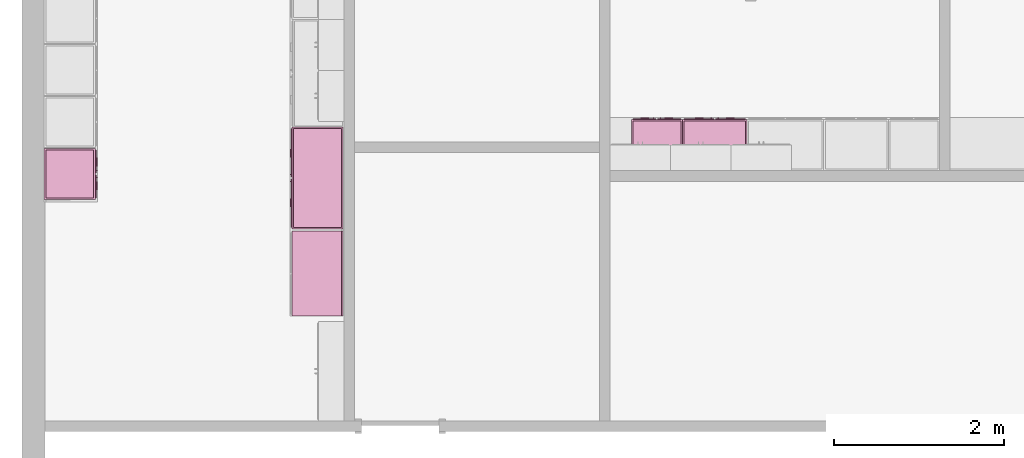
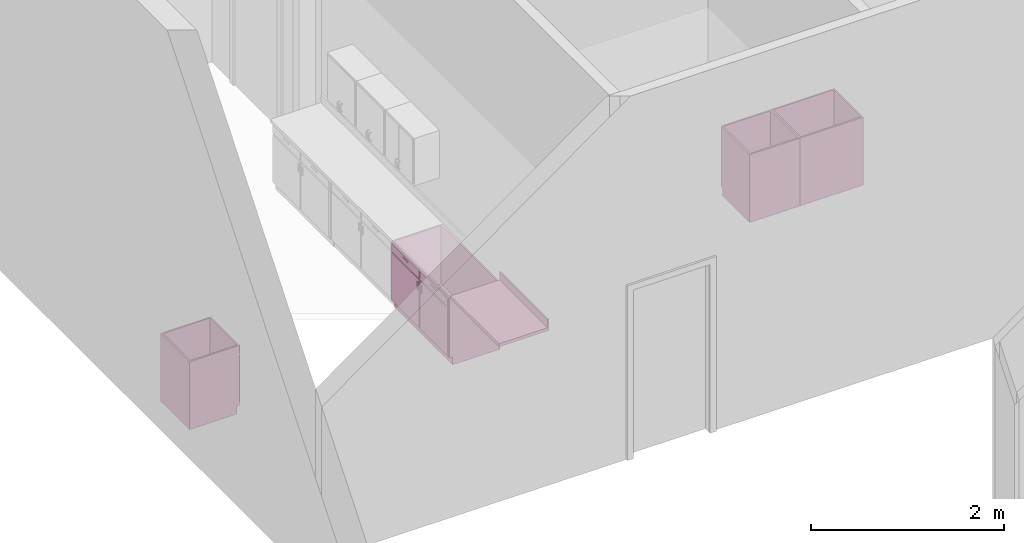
# One storey, part 39 of 47: 5 furnishings.
"""IFC2X3 building model written with IfcOpenShell, lengths in metres."""

from ifc_helpers import new_model, entity, si_unit, converted_unit, frame, origin, origin_2d_with_axis, place, context, project, spatial, rectangle, extrude, face_set, surface_model, source, transform, mapped, type_object, type_shapes, element, save


model = new_model("IFC2X3")

# Units and contexts
model_context = context("Model", 3, precision=1e-09, world=origin())
plan_context = context("Plan", 3, precision=1e-09, world=origin())
ifc_project = project(units=[si_unit("LENGTHUNIT", "METRE"), si_unit("AREAUNIT", "SQUARE_METRE"), si_unit("VOLUMEUNIT", "CUBIC_METRE"), converted_unit("PLANEANGLEUNIT", "DEGREE", entity("IfcRatioMeasure", 0.01745329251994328), si_unit("PLANEANGLEUNIT", "RADIAN"), dimensions=[0, 0, 0, 0, 0, 0, 0]), si_unit("TIMEUNIT", "SECOND")], contexts=[model_context, plan_context])

# Site, building, storey, space
site_placement = place(None, origin())
site = spatial("IfcSite", under=ifc_project, at=site_placement, Name="Default", CompositionType="ELEMENT")
building_placement = place(site_placement, origin())
building = spatial("IfcBuilding", under=site, at=building_placement, CompositionType="ELEMENT")
storey_placement = place(building_placement, frame((0.0, 0.0, 4.570000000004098)))
storey = spatial("IfcBuildingStorey", under=building, at=storey_placement, Name="Second Floor", CompositionType="ELEMENT", Elevation=4.570000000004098)
space_1_placement = place(storey_placement, origin())
space_1 = spatial("IfcSpace", under=storey, at=space_1_placement, Name="2C17", CompositionType="ELEMENT", InteriorOrExteriorSpace="INTERNAL")

# Furnishing
furniture_type_1 = type_object("IfcFurnitureType", Name="600mm", AssemblyPlace="NOTDEFINED")
shared_shape_1 = source(origin(), model_context, "Body", "SurfaceModel", [
    surface_model("IfcFaceBasedSurfaceModel", [(0.5809499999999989, 0.0444500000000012, 0.86000000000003), (0.5809499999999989, 0.0444500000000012, 0.09999999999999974), (0.01905000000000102, 0.0444500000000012, 0.09999999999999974), (0.01905000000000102, 0.0444500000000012, 0.86000000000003), (0.5999999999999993, 0.02540000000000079, 0.8600000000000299), (0.0, 0.02540000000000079, 0.8600000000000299), (0.5999999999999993, 0.02540000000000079, 0.09999999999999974), (0.0, 0.02540000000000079, 0.0999999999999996), (0.01905000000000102, 0.6063499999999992, 0.86000000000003), (0.01905000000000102, 0.6063499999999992, 0.09999999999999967), (0.01905000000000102, 0.06040000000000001, 0.09999999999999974), (0.0, 0.6253999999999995, 0.8600000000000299), (0.0, 0.6254000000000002, 0.0), (0.0, 0.06040000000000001, 0.0), (0.0, 0.06040000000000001, 0.09999999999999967), (0.5809499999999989, 0.6063499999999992, 0.86000000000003), (0.5809499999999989, 0.6063499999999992, 0.09999999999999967), (0.5999999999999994, 0.6253999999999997, 0.8600000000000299), (0.5999999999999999, 0.6253999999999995, 0.0), (0.5809499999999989, 0.06040000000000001, 0.09999999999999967), (0.5999999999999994, 0.06040000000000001, 0.09999999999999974), (0.5999999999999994, 0.06040000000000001, 0.0), (0.2103250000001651, 0.0, 0.8155500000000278), (0.2103250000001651, 0.0, 0.8028500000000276), (0.1087250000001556, 0.0, 0.8028500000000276), (0.1087250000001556, 0.0, 0.8155500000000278), (0.4912750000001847, 0.0, 0.8155500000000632), (0.4912750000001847, 0.0, 0.8028500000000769), (0.3896750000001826, 0.0, 0.8028500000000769), (0.3896750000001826, 0.0, 0.8155500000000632), (0.2650750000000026, 0.0, 0.6822000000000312), (0.2650750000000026, 0.0, 0.5806000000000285), (0.2523750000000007, 0.0, 0.5806000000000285), (0.2523750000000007, 0.0, 0.6822000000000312), (0.3476249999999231, 0.0, 0.6822000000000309), (0.3476249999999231, 0.0, 0.5806000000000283), (0.3349249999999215, 0.0, 0.5806000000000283), (0.3349249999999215, 0.0, 0.6822000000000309), (0.2103250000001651, 0.0127000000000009, 0.8155500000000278), (0.2103250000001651, 0.0127000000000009, 0.8028500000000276), (0.1087250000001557, 0.01270000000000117, 0.8028500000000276), (0.1087250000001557, 0.01270000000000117, 0.8155500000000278), (0.4912750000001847, 0.01269999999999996, 0.8155500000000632), (0.4912750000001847, 0.01269999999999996, 0.8028500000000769), (0.3896750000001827, 0.01270000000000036, 0.8028500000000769), (0.3896750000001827, 0.01270000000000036, 0.8155500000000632), (0.2650750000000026, 0.01270000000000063, 0.6822000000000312), (0.2650750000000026, 0.01270000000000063, 0.5806000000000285), (0.2523750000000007, 0.01270000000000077, 0.5806000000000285), (0.2523750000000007, 0.01270000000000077, 0.6822000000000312), (0.3476249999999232, 0.0127000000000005, 0.6822000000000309), (0.3476249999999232, 0.0127000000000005, 0.5806000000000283), (0.3349249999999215, 0.0127000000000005, 0.5806000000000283), (0.3349249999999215, 0.0127000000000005, 0.6822000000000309), (0.2904749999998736, 0.01270000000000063, 0.8409500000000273), (0.2904749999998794, 0.01270000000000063, 0.7393500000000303), (0.01905000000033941, 0.01270000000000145, 0.7393500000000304), (0.01905000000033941, 0.01270000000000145, 0.8409500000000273), (0.5809500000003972, 0.01269999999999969, 0.8409500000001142), (0.5809500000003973, 0.01269999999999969, 0.7393500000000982), (0.3095249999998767, 0.0127000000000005, 0.7393500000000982), (0.309524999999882, 0.0127000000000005, 0.8409500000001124), (0.2904749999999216, 0.01270000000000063, 0.7203000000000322), (0.290474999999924, 0.01270000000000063, 0.1190499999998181), (0.01905000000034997, 0.01270000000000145, 0.1190499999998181), (0.01905000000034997, 0.01270000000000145, 0.7203000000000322), (0.5809500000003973, 0.01269999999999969, 0.7203000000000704), (0.5809500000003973, 0.01269999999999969, 0.1190499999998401), (0.3095249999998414, 0.0127000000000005, 0.1190499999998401), (0.3095249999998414, 0.0127000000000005, 0.7203000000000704), (0.2904749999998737, 0.02540000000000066, 0.8409500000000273), (0.2904749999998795, 0.02540000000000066, 0.7393500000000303), (0.01905000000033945, 0.02540000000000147, 0.7393500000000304), (0.01905000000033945, 0.02540000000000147, 0.8409500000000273), (0.5809500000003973, 0.02539999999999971, 0.8409500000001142), (0.5809500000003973, 0.02539999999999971, 0.7393500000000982), (0.3095249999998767, 0.02540000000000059, 0.7393500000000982), (0.309524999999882, 0.02540000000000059, 0.8409500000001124), (0.2904749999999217, 0.02540000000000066, 0.7203000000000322), (0.290474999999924, 0.02540000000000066, 0.1190499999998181), (0.01905000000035, 0.02540000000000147, 0.1190499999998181), (0.01905000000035, 0.02540000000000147, 0.7203000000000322), (0.5809500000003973, 0.02539999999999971, 0.7203000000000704), (0.5809500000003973, 0.02539999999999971, 0.1190499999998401), (0.3095249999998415, 0.02540000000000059, 0.1190499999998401), (0.3095249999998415, 0.02540000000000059, 0.7203000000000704), (0.580949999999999, 0.6063499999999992, 0.1190499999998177), (0.580949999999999, 0.04445000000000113, 0.1190499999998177), (0.01905000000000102, 0.04445000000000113, 0.1190499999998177), (0.01905000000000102, 0.6063499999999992, 0.1190499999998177), (0.580949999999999, 0.6063499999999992, 0.09999999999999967), (0.580949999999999, 0.04445000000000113, 0.09999999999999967), (0.01905000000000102, 0.04445000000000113, 0.09999999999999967), (0.01905000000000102, 0.6063499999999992, 0.09999999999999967)], [face_set([[[0, 1, 2, 3]], [[0, 4, 5, 3]], [[4, 6, 7, 5]], [[2, 1, 6, 7]], [[3, 8, 9, 10, 2]], [[5, 11, 8, 3]], [[7, 5, 11, 12, 13, 14]], [[2, 7, 14, 10]], [[8, 15, 16, 9]], [[11, 17, 15, 8]], [[12, 11, 17, 18]], [[1, 19, 16, 15, 0]], [[0, 15, 17, 4]], [[4, 6, 20, 21, 18, 17]], [[6, 1, 19, 20]], [[10, 9, 16, 19]], [[18, 21, 13, 12]], [[13, 14, 10, 19, 20, 21]]]), face_set([[[22, 23, 24, 25]], [[26, 27, 28, 29]], [[30, 31, 32, 33]], [[34, 35, 36, 37]], [[38, 39, 40, 41]], [[42, 43, 44, 45]], [[46, 47, 48, 49]], [[50, 51, 52, 53]], [[25, 41, 38, 22]], [[24, 40, 41, 25]], [[23, 24, 40, 39]], [[22, 23, 39, 38]], [[29, 45, 42, 26]], [[28, 44, 45, 29]], [[27, 28, 44, 43]], [[26, 27, 43, 42]], [[33, 49, 46, 30]], [[32, 48, 49, 33]], [[31, 32, 48, 47]], [[30, 31, 47, 46]], [[37, 53, 50, 34]], [[36, 52, 53, 37]], [[35, 36, 52, 51]], [[34, 35, 51, 50]]]), face_set([[[54, 55, 56, 57]], [[58, 59, 60, 61]], [[62, 63, 64, 65]], [[66, 67, 68, 69]], [[70, 71, 72, 73]], [[74, 75, 76, 77]], [[78, 79, 80, 81]], [[82, 83, 84, 85]], [[57, 73, 70, 54]], [[56, 57, 73, 72]], [[55, 56, 72, 71]], [[54, 55, 71, 70]], [[61, 77, 74, 58]], [[60, 76, 77, 61]], [[59, 60, 76, 75]], [[58, 59, 75, 74]], [[65, 81, 78, 62]], [[64, 65, 81, 80]], [[63, 64, 80, 79]], [[62, 63, 79, 78]], [[69, 85, 82, 66]], [[68, 84, 85, 69]], [[67, 68, 84, 83]], [[66, 67, 83, 82]]]), face_set([[[86, 87, 88, 89]], [[90, 91, 92, 93]], [[89, 86, 90, 93]], [[88, 89, 93, 92]], [[87, 91, 92, 88]], [[86, 87, 91, 90]]])]),
])
type_shapes(furniture_type_1, [shared_shape_1])
furnishing_1_placement = place(space_1_placement, frame((-46.49500000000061, 41.12041136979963, 0.0), z_axis=(0.0, 0.0, 1.0), x_axis=(0.0, 1.0, 0.0)))
element("IfcFurnishingElement", 1, at=furnishing_1_placement, inside=space_1, type_object=furniture_type_1, Name="M_Base Cabinet-Double Door & 2 Drawer:600mm:600mm", ObjectType="600mm", context=model_context, shape_type="MappedRepresentation", body=[
    mapped(shared_shape_1, transform((0.0, 0.0, 0.0), scale=1.0)),
])

# Space
space_2_placement = place(storey_placement, origin())
space_2 = spatial("IfcSpace", under=storey, at=space_2_placement, Name="2C12", CompositionType="ELEMENT", InteriorOrExteriorSpace="INTERNAL")

# Furnishings
furnishing_2_placement = place(space_2_placement, frame((-39.62400000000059, 42.08383871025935, 0.0), z_axis=(0.0, 0.0, 1.0), x_axis=(-1.0, 0.0, 0.0)))
element("IfcFurnishingElement", 2, at=furnishing_2_placement, inside=space_2, type_object=furniture_type_1, Name="M_Base Cabinet-Double Door & 2 Drawer:600mm:600mm", ObjectType="600mm", context=model_context, shape_type="MappedRepresentation", body=[
    mapped(shared_shape_1, transform((0.0, 0.0, 0.0), scale=1.0)),
])
furniture_type_2 = type_object("IfcFurnitureType", Name="1200mm", AssemblyPlace="NOTDEFINED")
shared_shape_2 = source(origin(), model_context, "Body", "SurfaceModel", [
    surface_model("IfcFaceBasedSurfaceModel", [(1.180949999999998, 0.04445000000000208, 0.86000000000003), (1.180949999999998, 0.04445000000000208, 0.09999999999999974), (0.01905000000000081, 0.04445000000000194, 0.09999999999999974), (0.01905000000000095, 0.04445000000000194, 0.86000000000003), (1.2, 0.02540000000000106, 0.8600000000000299), (0.0, 0.02540000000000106, 0.8600000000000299), (1.2, 0.02540000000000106, 0.09999999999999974), (0.0, 0.02540000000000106, 0.0999999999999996), (0.01905000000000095, 0.6063499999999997, 0.86000000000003), (0.01905000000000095, 0.6063499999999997, 0.09999999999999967), (0.01905000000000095, 0.06040000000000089, 0.09999999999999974), (0.0, 0.6254000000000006, 0.8600000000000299), (0.0, 0.6254000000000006, 0.0), (0.0, 0.06040000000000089, 0.0), (0.0, 0.06040000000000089, 0.09999999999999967), (1.180949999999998, 0.6063499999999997, 0.86000000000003), (1.180949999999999, 0.6063499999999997, 0.09999999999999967), (1.2, 0.6254000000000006, 0.8600000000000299), (1.2, 0.6254000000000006, 0.0), (1.180949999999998, 0.06040000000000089, 0.09999999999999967), (1.2, 0.06040000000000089, 0.09999999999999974), (1.2, 0.06040000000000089, 0.0), (0.3603250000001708, 0.0, 0.8155500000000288), (0.3603250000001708, 0.0, 0.8028500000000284), (0.258725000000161, 0.0, 0.8028500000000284), (0.258725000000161, 0.0, 0.8155500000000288), (0.9412750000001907, 0.0, 0.8155500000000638), (0.9412750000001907, 0.0, 0.8028500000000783), (0.8396750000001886, 0.0, 0.8028500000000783), (0.8396750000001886, 0.0, 0.8155500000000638), (0.5650750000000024, 0.0, 0.6822000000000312), (0.5650750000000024, 0.0, 0.5806000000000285), (0.5523750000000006, 0.0, 0.5806000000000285), (0.5523750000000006, 0.0, 0.6822000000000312), (0.6476249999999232, 0.0, 0.6822000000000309), (0.6476249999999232, 0.0, 0.5806000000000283), (0.6349249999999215, 0.0, 0.5806000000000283), (0.6349249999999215, 0.0, 0.6822000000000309), (0.3603250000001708, 0.01270000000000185, 0.8155500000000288), (0.3603250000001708, 0.01270000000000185, 0.8028500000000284), (0.2587250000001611, 0.01270000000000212, 0.8028500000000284), (0.2587250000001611, 0.01270000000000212, 0.8155500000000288), (0.9412750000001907, 0.01269999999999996, 0.8155500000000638), (0.9412750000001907, 0.01269999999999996, 0.8028500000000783), (0.8396750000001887, 0.01270000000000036, 0.8028500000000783), (0.8396750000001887, 0.01270000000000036, 0.8155500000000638), (0.5650750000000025, 0.01270000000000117, 0.6822000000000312), (0.5650750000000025, 0.01270000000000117, 0.5806000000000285), (0.5523750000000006, 0.01270000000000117, 0.5806000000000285), (0.5523750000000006, 0.01270000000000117, 0.6822000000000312), (0.6476249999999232, 0.0127000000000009, 0.6822000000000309), (0.6476249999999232, 0.0127000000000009, 0.5806000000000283), (0.6349249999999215, 0.0127000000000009, 0.5806000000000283), (0.6349249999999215, 0.0127000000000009, 0.6822000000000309), (0.5904749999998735, 0.01270000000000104, 0.8409500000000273), (0.5904749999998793, 0.01270000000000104, 0.7393500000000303), (0.01905000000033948, 0.0127000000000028, 0.7393500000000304), (0.01905000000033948, 0.0127000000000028, 0.8409500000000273), (1.180950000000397, 0.01269999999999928, 0.8409500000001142), (1.180950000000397, 0.01269999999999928, 0.7393500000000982), (0.6095249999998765, 0.01270000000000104, 0.7393500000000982), (0.6095249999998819, 0.01270000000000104, 0.8409500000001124), (0.5904749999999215, 0.01270000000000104, 0.7203000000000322), (0.5904749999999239, 0.01270000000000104, 0.1190499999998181), (0.01905000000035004, 0.0127000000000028, 0.1190499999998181), (0.01905000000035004, 0.0127000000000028, 0.7203000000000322), (1.180950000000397, 0.01269999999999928, 0.7203000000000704), (1.180950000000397, 0.01269999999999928, 0.1190499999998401), (0.6095249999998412, 0.01270000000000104, 0.1190499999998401), (0.6095249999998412, 0.01270000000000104, 0.7203000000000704), (0.5904749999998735, 0.02540000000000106, 0.8409500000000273), (0.5904749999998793, 0.02540000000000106, 0.7393500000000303), (0.01905000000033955, 0.02540000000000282, 0.7393500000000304), (0.01905000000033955, 0.02540000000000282, 0.8409500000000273), (1.180950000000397, 0.02539999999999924, 0.8409500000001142), (1.180950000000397, 0.02539999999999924, 0.7393500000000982), (0.6095249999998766, 0.025400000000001, 0.7393500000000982), (0.6095249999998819, 0.025400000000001, 0.8409500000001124), (0.5904749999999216, 0.02540000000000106, 0.7203000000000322), (0.5904749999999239, 0.02540000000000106, 0.1190499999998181), (0.01905000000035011, 0.02540000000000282, 0.1190499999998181), (0.01905000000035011, 0.02540000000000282, 0.7203000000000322), (1.180950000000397, 0.02539999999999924, 0.7203000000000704), (1.180950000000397, 0.02539999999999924, 0.1190499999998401), (0.6095249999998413, 0.025400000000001, 0.1190499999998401), (0.6095249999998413, 0.025400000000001, 0.7203000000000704), (1.180949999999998, 0.6063499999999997, 0.1190499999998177), (1.180949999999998, 0.04445000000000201, 0.1190499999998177), (0.01905000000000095, 0.04445000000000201, 0.1190499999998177), (0.01905000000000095, 0.6063499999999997, 0.1190499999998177), (1.180949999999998, 0.6063499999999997, 0.09999999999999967), (1.180949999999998, 0.04445000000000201, 0.09999999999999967), (0.01905000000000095, 0.04445000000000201, 0.09999999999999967), (0.01905000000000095, 0.6063499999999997, 0.09999999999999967)], [face_set([[[0, 1, 2, 3]], [[0, 4, 5, 3]], [[4, 6, 7, 5]], [[2, 1, 6, 7]], [[3, 8, 9, 10, 2]], [[5, 11, 8, 3]], [[7, 5, 11, 12, 13, 14]], [[2, 7, 14, 10]], [[8, 15, 16, 9]], [[11, 17, 15, 8]], [[12, 11, 17, 18]], [[1, 19, 16, 15, 0]], [[0, 15, 17, 4]], [[4, 6, 20, 21, 18, 17]], [[6, 1, 19, 20]], [[10, 9, 16, 19]], [[18, 21, 13, 12]], [[13, 14, 10, 19, 20, 21]]]), face_set([[[22, 23, 24, 25]], [[26, 27, 28, 29]], [[30, 31, 32, 33]], [[34, 35, 36, 37]], [[38, 39, 40, 41]], [[42, 43, 44, 45]], [[46, 47, 48, 49]], [[50, 51, 52, 53]], [[25, 41, 38, 22]], [[24, 40, 41, 25]], [[23, 24, 40, 39]], [[22, 23, 39, 38]], [[29, 45, 42, 26]], [[28, 44, 45, 29]], [[27, 28, 44, 43]], [[26, 27, 43, 42]], [[33, 49, 46, 30]], [[32, 48, 49, 33]], [[31, 32, 48, 47]], [[30, 31, 47, 46]], [[37, 53, 50, 34]], [[36, 52, 53, 37]], [[35, 36, 52, 51]], [[34, 35, 51, 50]]]), face_set([[[54, 55, 56, 57]], [[58, 59, 60, 61]], [[62, 63, 64, 65]], [[66, 67, 68, 69]], [[70, 71, 72, 73]], [[74, 75, 76, 77]], [[78, 79, 80, 81]], [[82, 83, 84, 85]], [[57, 73, 70, 54]], [[56, 57, 73, 72]], [[55, 56, 72, 71]], [[54, 55, 71, 70]], [[61, 77, 74, 58]], [[60, 76, 77, 61]], [[59, 60, 76, 75]], [[58, 59, 75, 74]], [[65, 81, 78, 62]], [[64, 65, 81, 80]], [[63, 64, 80, 79]], [[62, 63, 79, 78]], [[69, 85, 82, 66]], [[68, 84, 85, 69]], [[67, 68, 84, 83]], [[66, 67, 83, 82]]]), face_set([[[86, 87, 88, 89]], [[90, 91, 92, 93]], [[89, 86, 90, 93]], [[88, 89, 93, 92]], [[87, 91, 92, 88]], [[86, 87, 91, 90]]])]),
])
type_shapes(furniture_type_2, [shared_shape_2])
furnishing_3_placement = place(space_1_placement, frame((-44.23500000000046, 41.97288125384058, 0.0), z_axis=(0.0, 0.0, 1.0), x_axis=(0.0, -1.0, 0.0)))
element("IfcFurnishingElement", 3, at=furnishing_3_placement, inside=space_1, type_object=furniture_type_2, Name="M_Base Cabinet-Double Door & 2 Drawer:1200mm:1200mm", ObjectType="1200mm", context=model_context, shape_type="MappedRepresentation", body=[
    mapped(shared_shape_2, transform((0.0, 0.0, 0.0), scale=1.0)),
])
furniture_type_3 = type_object("IfcFurnitureType", Name="600mm Depth", AssemblyPlace="NOTDEFINED")
shared_shape_3 = source(origin(), model_context, "Body", "SweptSolid", [
    extrude(rectangle(XDim=0.01905000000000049, YDim=0.9999999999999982, at=origin_2d_with_axis()), frame((-0.7004622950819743, -0.009525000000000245, 0.9000000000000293), z_axis=(0.0, 0.0, 1.0), x_axis=(0.0, -1.0, 0.0)), (0.0, 0.0, 1.0), 0.1016000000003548),
    extrude(rectangle(XDim=0.9999999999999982, YDim=0.5999999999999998, at=origin_2d_with_axis()), frame((-0.7004622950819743, -0.2999999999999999, 0.8600000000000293), z_axis=(0.0, 0.0, 1.0), x_axis=(-1.0, 0.0, 0.0)), (0.0, 0.0, 1.0), 0.04000000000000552),
])
type_shapes(furniture_type_3, [shared_shape_3])
furnishing_4_placement = place(space_1_placement, frame((-43.60960000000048, 39.54962118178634, 0.0), z_axis=(0.0, 0.0, 1.0), x_axis=(0.0, -1.0, 0.0)))
element("IfcFurnishingElement", 4, at=furnishing_4_placement, inside=space_1, type_object=furniture_type_3, Name="M_Counter Top:600mm Depth:600mm Depth", ObjectType="600mm Depth", context=model_context, shape_type="MappedRepresentation", body=[
    mapped(shared_shape_3, transform((0.0, 0.0, 0.0), scale=1.0)),
])
furniture_type_4 = type_object("IfcFurnitureType", Name="760mm", AssemblyPlace="NOTDEFINED")
shared_shape_4 = source(origin(), model_context, "Body", "SurfaceModel", [
    surface_model("IfcFaceBasedSurfaceModel", [(0.7409499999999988, 0.04445000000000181, 0.86000000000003), (0.7409499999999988, 0.04445000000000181, 0.09999999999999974), (0.01905000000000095, 0.04445000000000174, 0.09999999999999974), (0.01905000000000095, 0.04445000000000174, 0.86000000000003), (0.7599999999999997, 0.02540000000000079, 0.8600000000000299), (0.0, 0.02540000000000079, 0.8600000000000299), (0.7599999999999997, 0.02540000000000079, 0.09999999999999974), (0.0, 0.02540000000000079, 0.0999999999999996), (0.01905000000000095, 0.6063499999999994, 0.86000000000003), (0.01905000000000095, 0.6063499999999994, 0.09999999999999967), (0.01905000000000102, 0.06040000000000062, 0.09999999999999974), (0.0, 0.6254000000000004, 0.8600000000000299), (0.0, 0.6254000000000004, 0.0), (0.0, 0.06040000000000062, 0.0), (0.0, 0.06040000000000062, 0.09999999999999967), (0.7409499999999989, 0.6063499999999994, 0.86000000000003), (0.7409499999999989, 0.6063499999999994, 0.09999999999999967), (0.7599999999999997, 0.6254000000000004, 0.8600000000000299), (0.7599999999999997, 0.6254000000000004, 0.0), (0.7409499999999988, 0.06040000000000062, 0.09999999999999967), (0.7599999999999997, 0.06040000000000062, 0.09999999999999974), (0.7599999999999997, 0.06040000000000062, 0.0), (0.2503250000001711, 0.0, 0.8155500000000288), (0.2503250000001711, 0.0, 0.8028500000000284), (0.1487250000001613, 0.0, 0.8028500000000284), (0.1487250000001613, 0.0, 0.8155500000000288), (0.6112750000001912, 0.0, 0.8155500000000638), (0.6112750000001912, 0.0, 0.8028500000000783), (0.509675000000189, 0.0, 0.8028500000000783), (0.509675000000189, 0.0, 0.8155500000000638), (0.3450750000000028, 0.0, 0.6822000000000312), (0.3450750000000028, 0.0, 0.5806000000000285), (0.3323750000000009, 0.0, 0.5806000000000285), (0.3323750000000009, 0.0, 0.6822000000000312), (0.4276249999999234, 0.0, 0.6822000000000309), (0.4276249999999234, 0.0, 0.5806000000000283), (0.4149249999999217, 0.0, 0.5806000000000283), (0.4149249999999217, 0.0, 0.6822000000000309), (0.2503250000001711, 0.01270000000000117, 0.8155500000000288), (0.2503250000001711, 0.01270000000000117, 0.8028500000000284), (0.1487250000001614, 0.01270000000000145, 0.8028500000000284), (0.1487250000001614, 0.01270000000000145, 0.8155500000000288), (0.6112750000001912, 0.01269999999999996, 0.8155500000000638), (0.6112750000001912, 0.01269999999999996, 0.8028500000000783), (0.5096750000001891, 0.01270000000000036, 0.8028500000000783), (0.5096750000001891, 0.01270000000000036, 0.8155500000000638), (0.3450750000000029, 0.0127000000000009, 0.6822000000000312), (0.3450750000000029, 0.0127000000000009, 0.5806000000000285), (0.3323750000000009, 0.0127000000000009, 0.5806000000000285), (0.3323750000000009, 0.0127000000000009, 0.6822000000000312), (0.4276249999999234, 0.01270000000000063, 0.6822000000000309), (0.4276249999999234, 0.01270000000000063, 0.5806000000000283), (0.4149249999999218, 0.01270000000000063, 0.5806000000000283), (0.4149249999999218, 0.01270000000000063, 0.6822000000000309), (0.3704749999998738, 0.01270000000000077, 0.8409500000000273), (0.3704749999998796, 0.01270000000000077, 0.7393500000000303), (0.01905000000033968, 0.01270000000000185, 0.7393500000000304), (0.01905000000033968, 0.01270000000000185, 0.8409500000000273), (0.7409500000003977, 0.01269999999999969, 0.8409500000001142), (0.7409500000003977, 0.01269999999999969, 0.7393500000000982), (0.3895249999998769, 0.01270000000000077, 0.7393500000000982), (0.3895249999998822, 0.01270000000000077, 0.8409500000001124), (0.3704749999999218, 0.01270000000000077, 0.7203000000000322), (0.3704749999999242, 0.01270000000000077, 0.1190499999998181), (0.01905000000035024, 0.01270000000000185, 0.1190499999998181), (0.01905000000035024, 0.01270000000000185, 0.7203000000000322), (0.7409500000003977, 0.01269999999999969, 0.7203000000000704), (0.7409500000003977, 0.01269999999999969, 0.1190499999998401), (0.3895249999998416, 0.01270000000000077, 0.1190499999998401), (0.3895249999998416, 0.01270000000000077, 0.7203000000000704), (0.3704749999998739, 0.02540000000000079, 0.8409500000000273), (0.3704749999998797, 0.02540000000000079, 0.7393500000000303), (0.01905000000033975, 0.02540000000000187, 0.7393500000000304), (0.01905000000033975, 0.02540000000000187, 0.8409500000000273), (0.7409500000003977, 0.02539999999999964, 0.8409500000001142), (0.7409500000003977, 0.02539999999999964, 0.7393500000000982), (0.3895249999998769, 0.02540000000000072, 0.7393500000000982), (0.3895249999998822, 0.02540000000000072, 0.8409500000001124), (0.3704749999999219, 0.02540000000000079, 0.7203000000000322), (0.3704749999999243, 0.02540000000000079, 0.1190499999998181), (0.01905000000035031, 0.02540000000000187, 0.1190499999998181), (0.01905000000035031, 0.02540000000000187, 0.7203000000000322), (0.7409500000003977, 0.02539999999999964, 0.7203000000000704), (0.7409500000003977, 0.02539999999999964, 0.1190499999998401), (0.3895249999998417, 0.02540000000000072, 0.1190499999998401), (0.3895249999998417, 0.02540000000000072, 0.7203000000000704), (0.7409499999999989, 0.6063499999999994, 0.1190499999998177), (0.7409499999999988, 0.04445000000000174, 0.1190499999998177), (0.01905000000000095, 0.04445000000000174, 0.1190499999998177), (0.01905000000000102, 0.6063499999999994, 0.1190499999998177), (0.7409499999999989, 0.6063499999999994, 0.09999999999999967), (0.7409499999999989, 0.04445000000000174, 0.09999999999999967), (0.01905000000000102, 0.04445000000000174, 0.09999999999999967), (0.01905000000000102, 0.6063499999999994, 0.09999999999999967)], [face_set([[[0, 1, 2, 3]], [[0, 4, 5, 3]], [[4, 6, 7, 5]], [[2, 1, 6, 7]], [[3, 8, 9, 10, 2]], [[5, 11, 8, 3]], [[7, 5, 11, 12, 13, 14]], [[2, 7, 14, 10]], [[8, 15, 16, 9]], [[11, 17, 15, 8]], [[12, 11, 17, 18]], [[1, 19, 16, 15, 0]], [[0, 15, 17, 4]], [[4, 6, 20, 21, 18, 17]], [[6, 1, 19, 20]], [[10, 9, 16, 19]], [[18, 21, 13, 12]], [[13, 14, 10, 19, 20, 21]]]), face_set([[[22, 23, 24, 25]], [[26, 27, 28, 29]], [[30, 31, 32, 33]], [[34, 35, 36, 37]], [[38, 39, 40, 41]], [[42, 43, 44, 45]], [[46, 47, 48, 49]], [[50, 51, 52, 53]], [[25, 41, 38, 22]], [[24, 40, 41, 25]], [[23, 24, 40, 39]], [[22, 23, 39, 38]], [[29, 45, 42, 26]], [[28, 44, 45, 29]], [[27, 28, 44, 43]], [[26, 27, 43, 42]], [[33, 49, 46, 30]], [[32, 48, 49, 33]], [[31, 32, 48, 47]], [[30, 31, 47, 46]], [[37, 53, 50, 34]], [[36, 52, 53, 37]], [[35, 36, 52, 51]], [[34, 35, 51, 50]]]), face_set([[[54, 55, 56, 57]], [[58, 59, 60, 61]], [[62, 63, 64, 65]], [[66, 67, 68, 69]], [[70, 71, 72, 73]], [[74, 75, 76, 77]], [[78, 79, 80, 81]], [[82, 83, 84, 85]], [[57, 73, 70, 54]], [[56, 57, 73, 72]], [[55, 56, 72, 71]], [[54, 55, 71, 70]], [[61, 77, 74, 58]], [[60, 76, 77, 61]], [[59, 60, 76, 75]], [[58, 59, 75, 74]], [[65, 81, 78, 62]], [[64, 65, 81, 80]], [[63, 64, 80, 79]], [[62, 63, 79, 78]], [[69, 85, 82, 66]], [[68, 84, 85, 69]], [[67, 68, 84, 83]], [[66, 67, 83, 82]]]), face_set([[[86, 87, 88, 89]], [[90, 91, 92, 93]], [[89, 86, 90, 93]], [[88, 89, 93, 92]], [[87, 91, 92, 88]], [[86, 87, 91, 90]]])]),
])
type_shapes(furniture_type_4, [shared_shape_4])
furnishing_5_placement = place(space_2_placement, frame((-38.86400000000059, 42.08383871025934, 0.0), z_axis=(0.0, 0.0, 1.0), x_axis=(-1.0, 0.0, 0.0)))
element("IfcFurnishingElement", 5, at=furnishing_5_placement, inside=space_2, type_object=furniture_type_4, Name="M_Base Cabinet-Double Door & 2 Drawer:760mm:760mm", ObjectType="760mm", context=model_context, shape_type="MappedRepresentation", body=[
    mapped(shared_shape_4, transform((0.0, 0.0, 0.0), scale=1.0)),
])

save(model, "model.ifc")
